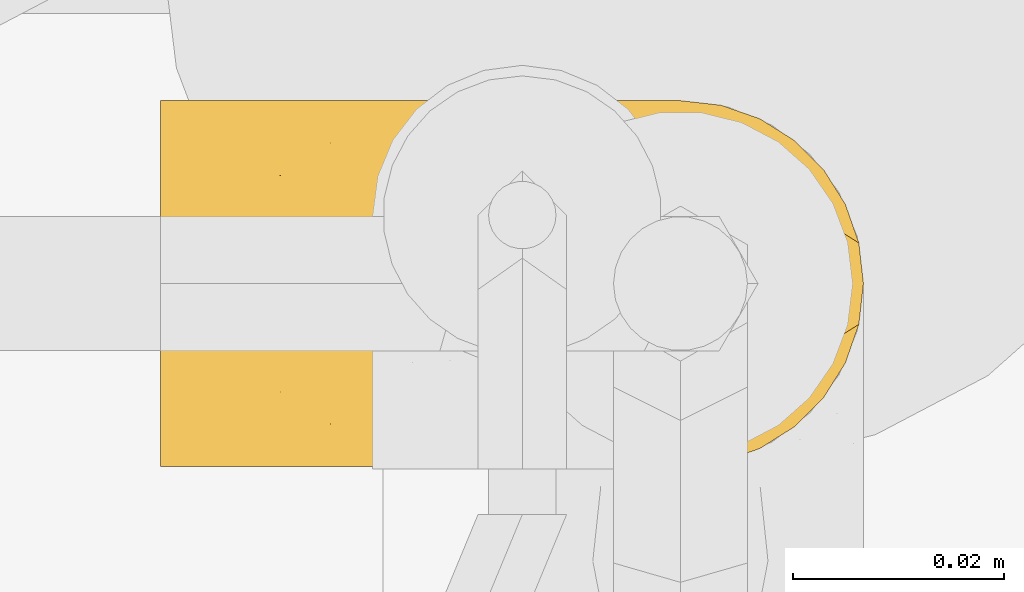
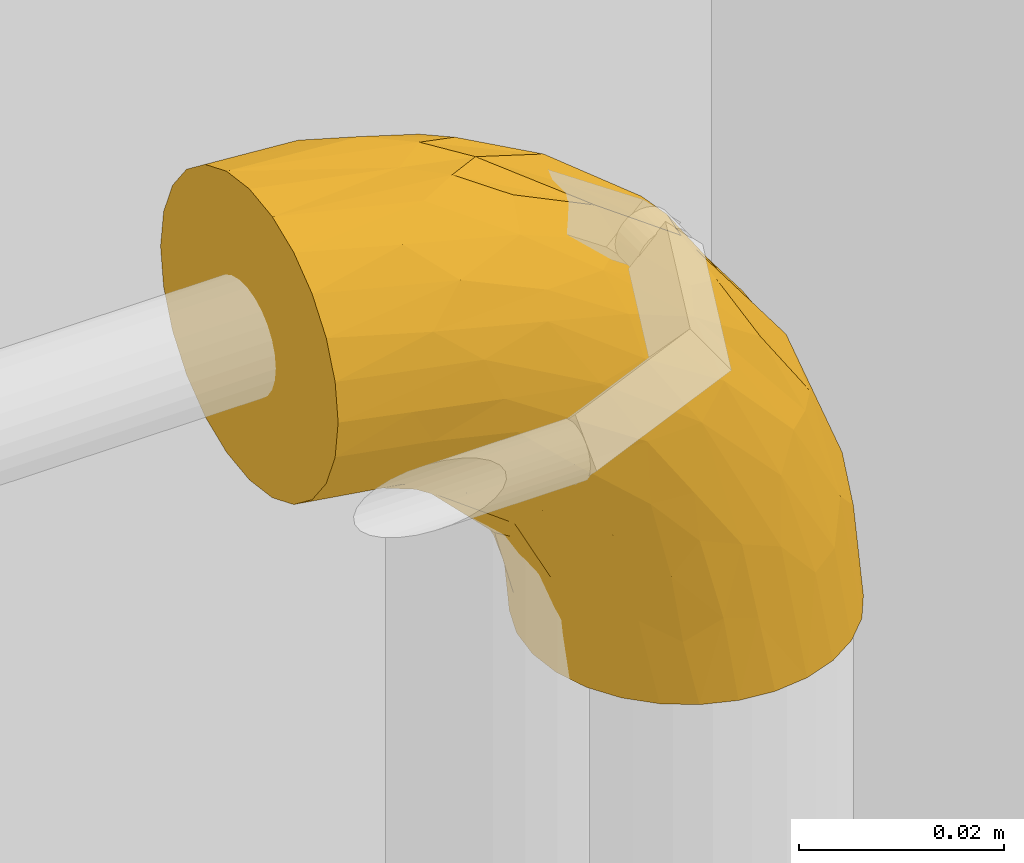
# One storey, part 9 of 32: 1 covering.
"""IFC2X3 building model written with IfcOpenShell, lengths in metres."""

import ifcopenshell
import ifcopenshell.guid

model = None  # the IFC model being written
_history = None  # IfcOwnerHistory: only IFC2X3 demands one
_inside = {}  # id of a spatial element -> (the spatial element, [elements in it])
_under = {}  # id of a project, library or spatial element -> (it, [spatial elements below it])
_declared = {}  # id of a project -> (the project, [libraries it declares])
_typed = {}  # id of a type object -> (the type object, [elements of that type])
_made_of = {}  # id of a material, layer set ... -> (it, [elements and type objects made of it])


def new_model(schema):
    """Start an empty IFC model of exactly this schema.

    Asked for "IFC4X3", IfcOpenShell would pick the latest addendum, in which some entities
    have other attributes; the version numbers below select the first issue.
    IFC2X3 requires an IfcOwnerHistory on every rooted entity: one is made here for all.
    """
    global model, _history
    if schema == "IFC4X3":
        model = ifcopenshell.file(schema_version=(4, 3, 0, 0))
    else:
        model = ifcopenshell.file(schema=schema)
    _inside.clear()
    _under.clear()
    _declared.clear()
    _typed.clear()
    _made_of.clear()
    _history = None
    if model.schema == "IFC2X3":
        org = make("IfcOrganization", Name="unknown")
        user = make(
            "IfcPersonAndOrganization",
            ThePerson=make("IfcPerson", FamilyName="unknown"),
            TheOrganization=org,
        )
        app = make(
            "IfcApplication",
            ApplicationDeveloper=org,
            Version="unknown",
            ApplicationFullName="unknown",
            ApplicationIdentifier="unknown",
        )
        _history = make(
            "IfcOwnerHistory",
            OwningUser=user,
            OwningApplication=app,
            ChangeAction="ADDED",
            CreationDate=0,
        )
    return model


def make(cls, **values):
    """One entity of the class cls with the attributes given. An attribute that is None is left unset."""
    return model.create_entity(
        cls, **{name: value for name, value in values.items() if value is not None}
    )


def entity(cls, *values):
    """Any entity or typed value of the class cls, its attributes in the order of the schema. None: left unset."""
    e = model.create_entity(cls)
    for i, value in enumerate(values):
        if value is not None:
            e[i] = value
    return e


def rooted(cls, **values):
    """An entity with a GlobalId (a new one), such as an element, a storey or a relation."""
    return make(cls, GlobalId=ifcopenshell.guid.new(), OwnerHistory=_history, **values)


def si_unit(unit_type, name, prefix=None):
    """IfcSIUnit, for example si_unit("LENGTHUNIT", "METRE", prefix="MILLI")."""
    return make("IfcSIUnit", UnitType=unit_type, Prefix=prefix, Name=name)


def converted_unit(unit_type, name, factor, base, dimensions=None, offset=None):
    """IfcConversionBasedUnit, such as the inch: factor (a typed value) times the base unit."""
    return make(
        "IfcConversionBasedUnit"
        if offset is None
        else "IfcConversionBasedUnitWithOffset",
        ConversionOffset=offset,
        Dimensions=None
        if dimensions is None
        else entity("IfcDimensionalExponents", *dimensions),
        UnitType=unit_type,
        Name=name,
        ConversionFactor=make(
            "IfcMeasureWithUnit", ValueComponent=factor, UnitComponent=base
        ),
    )


def derived_unit(unit_type, elements):
    """IfcDerivedUnit: a product of units, each with its exponent."""
    return make(
        "IfcDerivedUnit",
        Elements=[
            make("IfcDerivedUnitElement", Unit=unit, Exponent=power)
            for unit, power in elements
        ],
        UnitType=unit_type,
    )


def assignment(units):
    """IfcUnitAssignment: the units of a project."""
    return None if units is None else make("IfcUnitAssignment", Units=units)


def point(xyz):
    """IfcCartesianPoint."""
    return None if xyz is None else make("IfcCartesianPoint", Coordinates=xyz)


def direction(xyz):
    """IfcDirection."""
    return None if xyz is None else make("IfcDirection", DirectionRatios=xyz)


def frame(location, z_axis=None, x_axis=None):
    """IfcAxis2Placement3D, a coordinate frame: its origin and axes. An axis left out is left unset."""
    return make(
        "IfcAxis2Placement3D",
        Location=point(location),
        Axis=direction(z_axis),
        RefDirection=direction(x_axis),
    )


def origin():
    """The frame at (0, 0, 0) with its axes left unset."""
    return frame((0.0, 0.0, 0.0))


def place(relative_to, where):
    """IfcLocalPlacement: puts the frame where relative to a parent placement (None: the world)."""
    return make(
        "IfcLocalPlacement", PlacementRelTo=relative_to, RelativePlacement=where
    )


def context(
    kind, dimensions, precision=None, world=None, true_north=None, identifier=None
):
    """IfcGeometricRepresentationContext, for example the 3D "Model" context."""
    return make(
        "IfcGeometricRepresentationContext",
        ContextIdentifier=identifier,
        ContextType=kind,
        CoordinateSpaceDimension=dimensions,
        Precision=precision,
        WorldCoordinateSystem=world,
        TrueNorth=true_north,
    )


def subcontext(parent, identifier, kind, view, scale=None):
    """IfcGeometricRepresentationSubContext, for example "Body" below "Model"."""
    return make(
        "IfcGeometricRepresentationSubContext",
        ContextIdentifier=identifier,
        ContextType=kind,
        ParentContext=parent,
        TargetScale=scale,
        TargetView=view,
    )


def project(units=None, contexts=None):
    """IfcProject with its units and contexts."""
    return rooted(
        "IfcProject",
        Name="project",
        RepresentationContexts=contexts,
        UnitsInContext=assignment(units),
    )


def spatial(cls, under=None, at=None, **own):
    """A site, building, storey or space (cls), placed at a placement, below another one or the project."""
    s = rooted(cls, ObjectPlacement=at, **own)
    if under is not None:
        _under.setdefault(under.id(), (under, []))[1].append(s)
    return s


def faces_of(points, faces, orient=None, outer=None):
    """IfcFace entities. A face is a list of loops; a loop is a list of indices into points, from 0.

    orient and outer hold one flag for each loop. By default every Orientation is true, the
    first loop of a face is its IfcFaceOuterBound and the others are IfcFaceBound.
    """
    made = []
    for i, loops in enumerate(faces):
        bounds = []
        for j, loop in enumerate(loops):
            is_outer = j == 0 if outer is None else outer[i][j]
            bounds.append(
                make(
                    "IfcFaceOuterBound" if is_outer else "IfcFaceBound",
                    Bound=make("IfcPolyLoop", Polygon=[points[k] for k in loop]),
                    Orientation=True if orient is None else orient[i][j],
                )
            )
        made.append(make("IfcFace", Bounds=bounds))
    return made


def faceted_brep(points, faces, orient=None, outer=None, voids=None):
    """IfcFacetedBrep: a solid bounded by flat faces; with voids (closed shells), ...WithVoids."""
    shared = [point(p) for p in points]
    hull = make("IfcClosedShell", CfsFaces=faces_of(shared, faces, orient, outer))
    if voids is None:
        return make("IfcFacetedBrep", Outer=hull)
    return make(
        "IfcFacetedBrepWithVoids",
        Outer=hull,
        Voids=[
            make(cls, CfsFaces=faces_of(shared, fs, o, b)) for cls, fs, o, b in voids
        ],
    )


def shape(context_of_items, identifier, shape_type, items):
    """IfcShapeRepresentation: the items that make up one representation, for example the "Body"."""
    return make(
        "IfcShapeRepresentation",
        ContextOfItems=context_of_items,
        RepresentationIdentifier=identifier,
        RepresentationType=shape_type,
        Items=items,
    )


def material(Name=None, Category=None):
    """IfcMaterial."""
    return make("IfcMaterial", Name=Name, Category=Category)


def made_of(thing, what):
    """Note that an element or type object is made of a material, layer set ...; save() writes the relation."""
    if what is not None:
        _made_of.setdefault(what.id(), (what, []))[1].append(thing)
    return thing


def type_object(cls, material=None, **own):
    """A type object (cls), such as IfcWallType, which elements share."""
    return made_of(rooted(cls, **own), material)


def element(
    cls,
    number,
    at=None,
    inside=None,
    cuts=None,
    type_object=None,
    material=None,
    context=None,
    identifier="Body",
    shape_type=None,
    held_by="IfcProductDefinitionShape",
    body=None,
    shapes=None,
    **own,
):
    """One element of the class cls, such as IfcWall. Its Tag is "e" and its number.

    at: its placement. inside: the storey or other place that contains it. cuts: it is an
    opening in that element (IfcRelVoidsElement). A single representation is given by context,
    identifier, shape_type and body (its items); several are given by shapes. held_by: the class
    of the entity that holds the representations. save() writes the other relations.
    """
    e = rooted(cls, Tag="e%d" % number, ObjectPlacement=at, **own)
    if body is not None:
        shapes = [shape(context, identifier, shape_type, body)]
    if shapes is not None:
        e.Representation = make(held_by, Representations=shapes)
    if inside is not None:
        _inside.setdefault(inside.id(), (inside, []))[1].append(e)
    if cuts is not None:
        rooted(
            "IfcRelVoidsElement", RelatingBuildingElement=cuts, RelatedOpeningElement=e
        )
    if type_object is not None:
        _typed.setdefault(type_object.id(), (type_object, []))[1].append(e)
    return made_of(e, material)


def aggregate(whole, parts):
    """IfcRelAggregates: a whole, such as a stair, and the parts it consists of."""
    return rooted("IfcRelAggregates", RelatingObject=whole, RelatedObjects=parts)


def save(model, path):
    """Write the relations noted so far, then the file.

    IfcRelAggregates (storeys below a building ...), IfcRelContainedInSpatialStructure (elements
    in a storey), IfcRelDefinesByType, IfcRelAssociatesMaterial and IfcRelDeclares: one each for
    every whole, place, type object, material and project.
    """
    for whole, parts in _under.values():
        aggregate(whole, parts)
    for where, things in _inside.values():
        rooted(
            "IfcRelContainedInSpatialStructure",
            RelatedElements=things,
            RelatingStructure=where,
        )
    for kind, things in _typed.values():
        rooted("IfcRelDefinesByType", RelatedObjects=things, RelatingType=kind)
    for what, things in _made_of.values():
        rooted("IfcRelAssociatesMaterial", RelatedObjects=things, RelatingMaterial=what)
    for by, libraries in _declared.values():
        rooted("IfcRelDeclares", RelatingContext=by, RelatedDefinitions=libraries)
    model.write(path)


model = new_model("IFC2X3")

# Units and contexts
model_context = context("Model", 3, precision=1e-05, world=origin(), true_north=direction((6.123031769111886e-17, 1.0)))
body_context = subcontext(model_context, "Body", "Model", "MODEL_VIEW")
ifc_project = project(units=[si_unit("LENGTHUNIT", "METRE"), si_unit("AREAUNIT", "SQUARE_METRE"), si_unit("VOLUMEUNIT", "CUBIC_METRE"), converted_unit("PLANEANGLEUNIT", "DEGREE", entity("IfcPlaneAngleMeasure", 0.017453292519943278), si_unit("PLANEANGLEUNIT", "RADIAN"), dimensions=[0, 0, 0, 0, 0, 0, 0]), si_unit("MASSUNIT", "GRAM", prefix="KILO"), derived_unit("MASSDENSITYUNIT", [(si_unit("MASSUNIT", "GRAM", prefix="KILO"), 1), (si_unit("LENGTHUNIT", "METRE"), -3)]), derived_unit("IONCONCENTRATIONUNIT", [(si_unit("MASSUNIT", "GRAM", prefix="KILO"), 1), (si_unit("LENGTHUNIT", "METRE"), -3)]), derived_unit("MOMENTOFINERTIAUNIT", [(si_unit("LENGTHUNIT", "METRE"), 4)]), si_unit("TIMEUNIT", "SECOND"), si_unit("FREQUENCYUNIT", "HERTZ"), si_unit("THERMODYNAMICTEMPERATUREUNIT", "DEGREE_CELSIUS"), derived_unit("THERMALTRANSMITTANCEUNIT", [(si_unit("MASSUNIT", "GRAM", prefix="KILO"), 1), (si_unit("THERMODYNAMICTEMPERATUREUNIT", "KELVIN"), -1), (si_unit("TIMEUNIT", "SECOND"), -3)]), derived_unit("THERMALCONDUCTANCEUNIT", [(si_unit("MASSUNIT", "GRAM", prefix="KILO"), 1), (si_unit("THERMODYNAMICTEMPERATUREUNIT", "KELVIN"), -1), (si_unit("TIMEUNIT", "SECOND"), -3), (si_unit("LENGTHUNIT", "METRE"), 1)]), derived_unit("VOLUMETRICFLOWRATEUNIT", [(si_unit("LENGTHUNIT", "METRE", prefix="DECI"), 3), (si_unit("TIMEUNIT", "SECOND"), -1)]), derived_unit("MASSFLOWRATEUNIT", [(si_unit("MASSUNIT", "GRAM", prefix="KILO"), 1), (si_unit("TIMEUNIT", "SECOND"), -1)]), derived_unit("ROTATIONALFREQUENCYUNIT", [(si_unit("TIMEUNIT", "SECOND"), -1)]), si_unit("ELECTRICCURRENTUNIT", "AMPERE"), si_unit("ELECTRICVOLTAGEUNIT", "VOLT"), si_unit("POWERUNIT", "WATT"), si_unit("FORCEUNIT", "NEWTON", prefix="KILO"), si_unit("ILLUMINANCEUNIT", "LUX"), si_unit("LUMINOUSFLUXUNIT", "LUMEN"), si_unit("LUMINOUSINTENSITYUNIT", "CANDELA"), si_unit("ENERGYUNIT", "JOULE"), derived_unit("USERDEFINED", [(si_unit("MASSUNIT", "GRAM", prefix="KILO"), -1), (si_unit("LENGTHUNIT", "METRE"), -2), (si_unit("TIMEUNIT", "SECOND"), 3), (si_unit("LUMINOUSFLUXUNIT", "LUMEN"), 1)]), derived_unit("USERDEFINED", [(si_unit("MASSUNIT", "GRAM", prefix="KILO"), 1), (si_unit("TIMEUNIT", "SECOND"), -3), (si_unit("LENGTHUNIT", "METRE"), 3), (si_unit("ELECTRICCURRENTUNIT", "AMPERE"), -2)]), derived_unit("SOUNDPOWERUNIT", [(si_unit("MASSUNIT", "GRAM", prefix="KILO"), 1), (si_unit("TIMEUNIT", "SECOND"), -3), (si_unit("LENGTHUNIT", "METRE"), 2)]), derived_unit("SOUNDPRESSUREUNIT", [(si_unit("MASSUNIT", "GRAM", prefix="KILO"), 1), (si_unit("LENGTHUNIT", "METRE"), -1), (si_unit("TIMEUNIT", "SECOND"), -2)]), derived_unit("LINEARVELOCITYUNIT", [(si_unit("LENGTHUNIT", "METRE"), 1), (si_unit("TIMEUNIT", "SECOND"), -1)]), si_unit("PRESSUREUNIT", "PASCAL"), derived_unit("USERDEFINED", [(si_unit("MASSUNIT", "GRAM", prefix="KILO"), 1), (si_unit("LENGTHUNIT", "METRE"), -2), (si_unit("TIMEUNIT", "SECOND"), -2)]), derived_unit("LINEARFORCEUNIT", [(si_unit("MASSUNIT", "GRAM", prefix="KILO"), 1), (si_unit("TIMEUNIT", "SECOND"), -2)]), derived_unit("PLANARFORCEUNIT", [(si_unit("MASSUNIT", "GRAM", prefix="KILO"), 1), (si_unit("LENGTHUNIT", "METRE"), -1), (si_unit("TIMEUNIT", "SECOND"), -2)]), derived_unit("SPECIFICHEATCAPACITYUNIT", [(si_unit("THERMODYNAMICTEMPERATUREUNIT", "KELVIN"), -1), (si_unit("LENGTHUNIT", "METRE"), 2), (si_unit("TIMEUNIT", "SECOND"), -2)]), derived_unit("HEATFLUXDENSITYUNIT", [(si_unit("MASSUNIT", "GRAM", prefix="KILO"), 1), (si_unit("TIMEUNIT", "SECOND"), -3)]), derived_unit("HEATINGVALUEUNIT", [(si_unit("LENGTHUNIT", "METRE"), 2), (si_unit("TIMEUNIT", "SECOND"), -2)]), derived_unit("VAPORPERMEABILITYUNIT", [(si_unit("LENGTHUNIT", "METRE"), -1), (si_unit("TIMEUNIT", "SECOND"), 1)]), derived_unit("DYNAMICVISCOSITYUNIT", [(si_unit("MASSUNIT", "GRAM", prefix="KILO"), 1), (si_unit("TIMEUNIT", "SECOND"), -1), (si_unit("LENGTHUNIT", "METRE"), -1)]), derived_unit("THERMALEXPANSIONCOEFFICIENTUNIT", [(si_unit("THERMODYNAMICTEMPERATUREUNIT", "KELVIN"), -1)]), derived_unit("MODULUSOFELASTICITYUNIT", [(si_unit("MASSUNIT", "GRAM", prefix="KILO"), 1), (si_unit("LENGTHUNIT", "METRE"), -1), (si_unit("TIMEUNIT", "SECOND"), -2)]), derived_unit("ISOTHERMALMOISTURECAPACITYUNIT", [(si_unit("MASSUNIT", "GRAM", prefix="KILO"), -1), (si_unit("LENGTHUNIT", "METRE"), 3)]), derived_unit("MOISTUREDIFFUSIVITYUNIT", [(si_unit("TIMEUNIT", "SECOND"), -1), (si_unit("LENGTHUNIT", "METRE"), 2)]), derived_unit("MASSPERLENGTHUNIT", [(si_unit("MASSUNIT", "GRAM", prefix="KILO"), 1), (si_unit("LENGTHUNIT", "METRE"), -1)]), derived_unit("THERMALRESISTANCEUNIT", [(si_unit("MASSUNIT", "GRAM", prefix="KILO"), -1), (si_unit("TIMEUNIT", "SECOND"), 3), (si_unit("THERMODYNAMICTEMPERATUREUNIT", "KELVIN"), 1)]), derived_unit("ACCELERATIONUNIT", [(si_unit("LENGTHUNIT", "METRE"), 1), (si_unit("TIMEUNIT", "SECOND"), -2)]), derived_unit("ANGULARVELOCITYUNIT", [(si_unit("TIMEUNIT", "SECOND"), -1), (si_unit("PLANEANGLEUNIT", "RADIAN"), 1)]), derived_unit("LINEARSTIFFNESSUNIT", [(si_unit("MASSUNIT", "GRAM", prefix="KILO"), 1), (si_unit("TIMEUNIT", "SECOND"), -2)]), derived_unit("WARPINGCONSTANTUNIT", [(si_unit("LENGTHUNIT", "METRE"), 6)]), derived_unit("LINEARMOMENTUNIT", [(si_unit("MASSUNIT", "GRAM", prefix="KILO"), 1), (si_unit("LENGTHUNIT", "METRE"), 1), (si_unit("TIMEUNIT", "SECOND"), -2)]), derived_unit("TORQUEUNIT", [(si_unit("MASSUNIT", "GRAM", prefix="KILO"), 1), (si_unit("LENGTHUNIT", "METRE"), 2), (si_unit("TIMEUNIT", "SECOND"), -2)])], contexts=[model_context])

# Site, building, storey
site_placement = place(None, origin())
site = spatial("IfcSite", under=ifc_project, at=site_placement, Name="Default", CompositionType="ELEMENT")
building_placement = place(site_placement, origin())
building = spatial("IfcBuilding", under=site, at=building_placement, CompositionType="ELEMENT")
storey_placement = place(building_placement, origin())
storey = spatial("IfcBuildingStorey", under=building, at=storey_placement, Name="Niveau 0", CompositionType="ELEMENT", Elevation=-1.949160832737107e-14)

# Covering
ifc_material = material(Name="Matériau du rendu 255-255-255")
covering_type = type_object("IfcCoveringType", Name="Isolation des canalisations:Par défaut", PredefinedType="INSULATION")
covering_placement = place(storey_placement, frame((-13.611196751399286, 2.7665812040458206, 2.453383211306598)))
element("IfcCovering", 1, at=covering_placement, inside=storey, type_object=covering_type, material=ifc_material, Name="Isolation des canalisations:Par défaut", ObjectType="Isolation des canalisations:Par défaut", PredefinedType="INSULATION", context=body_context, shape_type="Brep", body=[
    faceted_brep([(0.050895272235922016, 0.03629527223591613, -0.06824527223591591), (0.054757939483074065, 0.03585983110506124, -0.06824527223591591), (0.05842589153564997, 0.034575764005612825, -0.06824527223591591), (0.06171546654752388, 0.032507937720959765, -0.06824527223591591), (0.06446206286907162, 0.029760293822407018, -0.06824527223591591), (0.06652829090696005, 0.026470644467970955, -0.06824527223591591), (0.06781077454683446, 0.02280380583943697, -0.06824527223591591), (0.0682452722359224, 0.018945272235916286, -0.06824527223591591), (0.06780983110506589, 0.015082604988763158, -0.06824527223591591), (0.06652576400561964, 0.011414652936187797, -0.06824527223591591), (0.06445793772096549, 0.008125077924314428, -0.06824527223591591), (0.06171029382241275, 0.005378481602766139, -0.06824527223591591), (0.058420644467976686, 0.0033122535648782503, -0.06824527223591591), (0.05475380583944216, 0.002029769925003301, -0.06824527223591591), (0.050895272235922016, 0.0015952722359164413, -0.06824527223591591), (0.04703260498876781, 0.0020307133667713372, -0.06824527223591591), (0.04336465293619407, 0.00331478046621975, -0.06824527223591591), (0.04007507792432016, 0.005382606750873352, -0.06824527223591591), (0.03732848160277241, 0.008130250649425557, -0.06824527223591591), (0.03526225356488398, 0.01141990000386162, -0.06824527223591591), (0.033979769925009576, 0.015086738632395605, -0.06824527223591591), (0.03354527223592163, 0.018945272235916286, -0.06824527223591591), (0.03398071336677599, 0.022807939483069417, -0.06824527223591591), (0.0352647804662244, 0.026475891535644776, -0.06824527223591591), (0.037332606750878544, 0.029765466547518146, -0.06824527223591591), (0.04008025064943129, 0.03251206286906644, -0.06824527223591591), (0.043369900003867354, 0.03457829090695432, -0.06824527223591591), (0.047036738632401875, 0.035860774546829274, -0.06824527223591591), (0.001595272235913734, 0.014454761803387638, -0.03570408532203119), (0.001595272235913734, 0.010270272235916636, -0.033970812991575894), (0.001595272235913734, 0.006676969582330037, -0.03121357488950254), (0.001595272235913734, 0.003919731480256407, -0.02762027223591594), (0.001595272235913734, 0.0021864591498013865, -0.023435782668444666), (0.001595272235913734, 0.0015952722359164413, -0.018945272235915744), (0.001595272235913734, 0.0021864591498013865, -0.014454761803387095), (0.001595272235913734, 0.003919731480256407, -0.010270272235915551), (0.001595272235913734, 0.006676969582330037, -0.006676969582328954), (0.001595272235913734, 0.010270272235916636, -0.0039197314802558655), (0.001595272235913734, 0.014454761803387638, -0.0021864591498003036), (0.001595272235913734, 0.018945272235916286, -0.0015952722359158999), (0.001595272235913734, 0.02343578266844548, -0.0021864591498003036), (0.001595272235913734, 0.027620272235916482, -0.0039197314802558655), (0.001595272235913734, 0.03121357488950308, -0.006676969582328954), (0.001595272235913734, 0.033970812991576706, -0.010270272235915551), (0.001595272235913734, 0.03570408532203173, -0.014454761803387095), (0.001595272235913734, 0.03629527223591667, -0.018945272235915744), (0.001595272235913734, 0.03570408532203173, -0.023435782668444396), (0.001595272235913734, 0.033970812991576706, -0.02762027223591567), (0.001595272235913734, 0.03121357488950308, -0.031213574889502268), (0.001595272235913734, 0.027620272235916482, -0.033970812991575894), (0.001595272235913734, 0.02343578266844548, -0.03570408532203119), (0.001595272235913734, 0.01894527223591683, -0.03629527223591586), (0.04461060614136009, 0.03133458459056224, -0.024367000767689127), (0.05520607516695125, 0.0324510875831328, -0.04088020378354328), (0.04662716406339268, 0.03378706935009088, -0.031240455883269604), (0.022635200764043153, 0.022149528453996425, -0.005317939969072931), (0.018502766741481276, 0.018945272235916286, -0.004958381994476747), (0.027101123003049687, 0.018945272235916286, -0.0066687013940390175), (0.026428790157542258, 0.028816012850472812, -0.009728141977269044), (0.034746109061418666, 0.03068263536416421, -0.015760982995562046), (0.02724880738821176, 0.03274319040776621, -0.014206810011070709), (0.017647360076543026, 0.02524054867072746, -0.004776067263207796), (0.013004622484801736, 0.029200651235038, -0.005987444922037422), (0.042951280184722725, 0.03568226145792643, -0.03372303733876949), (0.03645563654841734, 0.03629527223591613, -0.03338490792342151), (0.03141249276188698, 0.03597727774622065, -0.024904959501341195), (0.06144561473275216, 0.030752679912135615, -0.05201300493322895), (0.05371291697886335, 0.029890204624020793, -0.033276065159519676), (0.018347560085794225, 0.03581412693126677, -0.017585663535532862), (0.026339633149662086, 0.034392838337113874, -0.016675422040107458), (0.05971173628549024, 0.02316390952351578, -0.036692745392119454), (0.0653551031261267, 0.02435364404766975, -0.05204597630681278), (0.05992934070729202, 0.02745100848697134, -0.04090792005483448), (0.017676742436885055, 0.03226292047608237, -0.010004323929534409), (0.0471425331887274, 0.03629527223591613, -0.04937897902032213), (0.04179908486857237, 0.03629527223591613, -0.041381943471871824), (0.01316791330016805, 0.03478404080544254, -0.013063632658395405), (0.03768974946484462, 0.023959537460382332, -0.013097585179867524), (0.04805807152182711, 0.02277267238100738, -0.021058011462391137), (0.05009999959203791, 0.026249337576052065, -0.02491877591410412), (0.06570855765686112, 0.018945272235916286, -0.05549234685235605), (0.0383757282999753, 0.027542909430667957, -0.015418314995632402), (0.02804202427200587, 0.024608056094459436, -0.008103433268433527), (0.06459915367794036, 0.027861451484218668, -0.05599549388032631), (0.06317184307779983, 0.018945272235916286, -0.04273942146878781), (0.04921371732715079, 0.03629527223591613, -0.059791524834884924), (0.0517926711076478, 0.03591493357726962, -0.05151216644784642), (0.05932311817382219, 0.033311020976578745, -0.0559211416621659), (0.03696754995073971, 0.03484866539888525, -0.02452729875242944), (0.05614202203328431, 0.035026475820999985, -0.05642461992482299), (0.03623295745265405, 0.0330855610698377, -0.020046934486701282), (0.05241841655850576, 0.03479750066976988, -0.04390302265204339), (0.028458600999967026, 0.03629527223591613, -0.028041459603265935), (0.020461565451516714, 0.03629527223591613, -0.02269801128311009), (0.04901890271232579, 0.03629527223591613, -0.05881212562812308), (0.05594789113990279, 0.018945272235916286, -0.0319280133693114), (0.04575145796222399, 0.028838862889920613, -0.02253776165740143), (0.03791253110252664, 0.018945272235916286, -0.013892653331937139), (0.010049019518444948, 0.03629527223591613, -0.020626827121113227), (0.04872393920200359, 0.018945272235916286, -0.02111660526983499), (0.03562046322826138, 0.028741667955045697, -0.06012681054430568), (0.012762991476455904, 0.035509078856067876, -0.02554511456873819), (0.020812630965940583, 0.029714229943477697, -0.038163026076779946), (0.012286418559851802, 0.030278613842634, -0.03369863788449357), (0.022511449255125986, 0.03257014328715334, -0.03585312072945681), (0.04260303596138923, 0.035962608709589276, -0.04758380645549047), (0.0453997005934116, 0.035754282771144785, -0.05793604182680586), (0.04014164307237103, 0.03464339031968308, -0.05179104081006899), (0.02204334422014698, 0.03590367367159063, -0.027448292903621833), (0.01760257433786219, 0.033786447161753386, -0.031246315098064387), (0.031224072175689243, 0.021988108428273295, -0.05558856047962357), (0.03344901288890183, 0.023813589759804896, -0.06109218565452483), (0.03132557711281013, 0.018945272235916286, -0.05996125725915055), (0.0342289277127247, 0.03344556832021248, -0.04550906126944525), (0.03727571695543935, 0.035636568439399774, -0.041544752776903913), (0.00888733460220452, 0.03321547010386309, -0.0294937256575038), (0.014357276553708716, 0.022634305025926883, -0.03852252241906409), (0.009879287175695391, 0.018945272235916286, -0.038514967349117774), (0.00758599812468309, 0.021964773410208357, -0.03659242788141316), (0.037997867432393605, 0.03195826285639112, -0.057971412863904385), (0.033044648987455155, 0.030390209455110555, -0.05019700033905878), (0.009229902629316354, 0.025154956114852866, -0.036038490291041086), (0.0167708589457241, 0.02650292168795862, -0.038175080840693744), (0.041766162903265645, 0.03413176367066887, -0.0605042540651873), (0.026739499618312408, 0.02725796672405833, -0.04525391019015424), (0.027451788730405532, 0.0314395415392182, -0.04141450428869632), (0.0292647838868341, 0.018945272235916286, -0.05227027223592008), (0.023249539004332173, 0.02282584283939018, -0.04415845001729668), (0.017570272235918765, 0.018945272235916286, -0.04057576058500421), (0.028875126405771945, 0.03537608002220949, -0.03407046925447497), (0.031890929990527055, 0.02543466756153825, -0.05464264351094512), (0.028265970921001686, 0.023656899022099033, -0.04949521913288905), (0.02341752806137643, 0.018945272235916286, -0.04642301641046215), (0.029179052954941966, 0.0338502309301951, -0.03870099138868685), (0.012286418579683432, 0.00761193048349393, -0.033698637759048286), (0.03561656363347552, 0.00915422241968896, -0.06012621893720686), (0.03799129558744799, 0.0059365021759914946, -0.05796574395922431), (0.0075859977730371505, 0.01592577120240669, -0.03659242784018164), (0.04259271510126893, 0.0019307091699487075, -0.047594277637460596), (0.04179908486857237, 0.0015952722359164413, -0.041381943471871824), (0.03724696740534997, 0.002261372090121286, -0.04154972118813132), (0.033036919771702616, 0.007507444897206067, -0.05019606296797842), (0.027451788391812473, 0.006451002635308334, -0.04141450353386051), (0.029189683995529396, 0.004039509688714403, -0.03870907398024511), (0.022521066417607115, 0.005316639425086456, -0.035853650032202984), (0.03344737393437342, 0.014084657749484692, -0.06109515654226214), (0.028875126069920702, 0.0025144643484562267, -0.03407046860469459), (0.022043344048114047, 0.0019868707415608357, -0.027448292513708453), (0.01760257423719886, 0.004104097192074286, -0.03124631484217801), (0.012762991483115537, 0.002381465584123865, -0.025545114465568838), (0.010049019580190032, 0.0015952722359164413, -0.020626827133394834), (0.04175980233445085, 0.003761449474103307, -0.06049677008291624), (0.04539407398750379, 0.002137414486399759, -0.057931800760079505), (0.04013105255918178, 0.003249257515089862, -0.05177761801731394), (0.00922990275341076, 0.012735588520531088, -0.03603849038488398), (0.008887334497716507, 0.004675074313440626, -0.02949372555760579), (0.03422554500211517, 0.004452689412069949, -0.04552472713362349), (0.014357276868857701, 0.015256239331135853, -0.03852252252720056), (0.02825837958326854, 0.014235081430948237, -0.04948512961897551), (0.026712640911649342, 0.010647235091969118, -0.04523640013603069), (0.023230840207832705, 0.015070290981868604, -0.04414337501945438), (0.031223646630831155, 0.01590572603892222, -0.05558905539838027), (0.03189268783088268, 0.012461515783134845, -0.054652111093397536), (0.016770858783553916, 0.011387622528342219, -0.038175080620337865), (0.04921371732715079, 0.0015952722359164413, -0.05979152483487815), (0.04901890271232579, 0.0015952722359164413, -0.05881212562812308), (0.0471425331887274, 0.0015952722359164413, -0.04937897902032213), (0.020461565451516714, 0.0015952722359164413, -0.02269801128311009), (0.028458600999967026, 0.0015952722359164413, -0.028041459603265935), (0.020805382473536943, 0.008173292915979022, -0.03815555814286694), (0.03645563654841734, 0.0015952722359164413, -0.03338490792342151), (0.027228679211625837, 0.005144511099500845, -0.014201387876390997), (0.0347636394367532, 0.007214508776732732, -0.01576489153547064), (0.02642879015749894, 0.009074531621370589, -0.009728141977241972), (0.02263520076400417, 0.01574101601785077, -0.005317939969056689), (0.028042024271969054, 0.013282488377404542, -0.008103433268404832), (0.037689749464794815, 0.013931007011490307, -0.013097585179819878), (0.05992974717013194, 0.01043424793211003, -0.040915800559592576), (0.06535408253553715, 0.013532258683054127, -0.052048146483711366), (0.05970534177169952, 0.014723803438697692, -0.03668245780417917), (0.05520108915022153, 0.005435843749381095, -0.04088029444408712), (0.046606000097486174, 0.004097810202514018, -0.03122945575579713), (0.05242173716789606, 0.0030906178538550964, -0.0439225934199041), (0.04297076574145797, 0.002206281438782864, -0.033757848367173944), (0.018340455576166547, 0.0020764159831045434, -0.017583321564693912), (0.02633963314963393, 0.003497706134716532, -0.016675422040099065), (0.036215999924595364, 0.004809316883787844, -0.020027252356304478), (0.013166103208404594, 0.0031070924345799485, -0.013061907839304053), (0.017647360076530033, 0.01264999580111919, -0.004776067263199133), (0.06459558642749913, 0.010023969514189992, -0.05599323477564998), (0.01300462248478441, 0.008689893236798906, -0.005987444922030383), (0.03835185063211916, 0.010351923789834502, -0.01539871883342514), (0.017676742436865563, 0.005627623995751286, -0.010004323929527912), (0.05931818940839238, 0.004576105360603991, -0.05592223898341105), (0.06144180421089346, 0.007133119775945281, -0.05201579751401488), (0.05178953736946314, 0.001974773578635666, -0.051515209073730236), (0.057836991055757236, 0.007727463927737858, -0.04090335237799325), (0.04461060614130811, 0.006555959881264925, -0.02436700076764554), (0.05616681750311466, 0.002851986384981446, -0.05668309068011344), (0.04806993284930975, 0.015114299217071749, -0.021070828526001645), (0.05009283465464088, 0.01163263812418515, -0.024916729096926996), (0.031417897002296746, 0.0019147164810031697, -0.024899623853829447), (0.03701879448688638, 0.003047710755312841, -0.024551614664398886), (0.04571403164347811, 0.00904990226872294, -0.022503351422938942), (0.05365558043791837, 0.009268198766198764, -0.03153712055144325)], [[[0, 1, 2, 3, 4, 5, 6, 7, 8, 9, 10, 11, 12, 13, 14, 15, 16, 17, 18, 19, 20, 21, 22, 23, 24, 25, 26, 27]], [[28, 29, 30, 31, 32, 33, 34, 35, 36, 37, 38, 39, 40, 41, 42, 43, 44, 45, 46, 47, 48, 49, 50, 51]], [[52, 53, 54]], [[55, 56, 57]], [[58, 59, 60]], [[61, 58, 62]], [[63, 64, 65]], [[61, 41, 40]], [[66, 53, 67]], [[68, 69, 65]], [[70, 71, 72]], [[62, 73, 42]], [[63, 74, 75, 64]], [[45, 44, 68]], [[69, 68, 76]], [[77, 78, 79]], [[42, 73, 43]], [[80, 7, 6]], [[58, 81, 59]], [[61, 55, 82]], [[71, 5, 83]], [[84, 71, 70]], [[83, 5, 4]], [[6, 71, 80]], [[71, 84, 80]], [[77, 55, 57]], [[5, 71, 6]], [[3, 66, 4]], [[1, 0, 85]], [[63, 86, 74]], [[66, 87, 53]], [[62, 42, 41]], [[63, 65, 88]], [[1, 86, 89]], [[40, 56, 55]], [[73, 60, 76]], [[83, 72, 71]], [[90, 59, 52]], [[40, 55, 61]], [[87, 66, 3]], [[4, 66, 83]], [[87, 3, 2]], [[72, 83, 66]], [[91, 89, 86]], [[53, 87, 91]], [[54, 53, 91]], [[67, 53, 52]], [[63, 54, 91]], [[54, 88, 90]], [[91, 87, 89]], [[65, 64, 92, 93]], [[86, 63, 91]], [[86, 85, 94, 74]], [[1, 85, 86]], [[70, 72, 79]], [[78, 95, 70]], [[67, 79, 72]], [[59, 81, 96]], [[40, 39, 56]], [[77, 57, 97]], [[82, 55, 77]], [[87, 2, 89]], [[1, 89, 2]], [[81, 82, 77]], [[58, 61, 82]], [[68, 65, 93]], [[88, 65, 69]], [[68, 93, 98, 45]], [[76, 68, 44]], [[90, 88, 69]], [[54, 63, 88]], [[60, 90, 69]], [[54, 90, 52]], [[59, 90, 60]], [[82, 81, 58]], [[77, 79, 81]], [[96, 81, 79]], [[44, 43, 76]], [[73, 76, 43]], [[61, 62, 41]], [[73, 62, 58]], [[76, 60, 69]], [[60, 73, 58]], [[70, 79, 78]], [[95, 84, 70]], [[67, 52, 96]], [[78, 97, 99]], [[66, 67, 72]], [[97, 78, 77]], [[78, 99, 95]], [[67, 96, 79]], [[59, 96, 52]], [[100, 24, 23]], [[93, 101, 98]], [[102, 103, 104]], [[98, 101, 46]], [[105, 106, 107]], [[108, 109, 101]], [[110, 111, 112]], [[92, 108, 93]], [[113, 114, 107]], [[47, 115, 48]], [[116, 117, 118]], [[49, 48, 103]], [[119, 100, 120]], [[100, 119, 24]], [[121, 122, 116]], [[119, 120, 113]], [[103, 122, 121]], [[115, 103, 48]], [[119, 107, 123]], [[123, 26, 25]], [[118, 51, 50]], [[26, 106, 27]], [[106, 74, 94]], [[46, 101, 47]], [[115, 101, 109]], [[123, 106, 26]], [[124, 125, 120]], [[22, 21, 112]], [[119, 25, 24]], [[110, 112, 126]], [[111, 23, 22]], [[114, 75, 105]], [[116, 127, 128]], [[122, 127, 116]], [[64, 129, 92]], [[106, 94, 27]], [[111, 100, 23]], [[109, 129, 104]], [[130, 124, 120]], [[130, 120, 100]], [[120, 125, 113]], [[130, 110, 131]], [[102, 124, 122]], [[121, 118, 50]], [[27, 94, 85, 0]], [[128, 117, 116]], [[127, 122, 124]], [[131, 124, 130]], [[131, 132, 127]], [[119, 123, 25]], [[106, 123, 107]], [[108, 101, 93]], [[113, 107, 119]], [[129, 133, 104]], [[125, 133, 113]], [[113, 133, 114]], [[129, 64, 114]], [[75, 74, 105]], [[92, 129, 108]], [[109, 108, 129]], [[46, 45, 98]], [[111, 110, 130]], [[126, 131, 110]], [[124, 131, 127]], [[111, 130, 100]], [[112, 111, 22]], [[50, 49, 121]], [[103, 121, 49]], [[101, 115, 47]], [[103, 115, 109]], [[116, 118, 121]], [[51, 118, 117]], [[133, 125, 104]], [[114, 133, 129]], [[102, 104, 125]], [[103, 109, 104]], [[124, 102, 125]], [[103, 102, 122]], [[114, 64, 75]], [[106, 105, 74]], [[107, 114, 105]], [[132, 131, 126]], [[132, 128, 127]], [[30, 29, 134]], [[135, 18, 136]], [[51, 117, 137]], [[138, 139, 140]], [[141, 135, 136]], [[142, 143, 144]], [[145, 112, 20]], [[146, 147, 148]], [[149, 150, 32]], [[151, 152, 153]], [[134, 29, 154]], [[155, 31, 30]], [[18, 135, 19]], [[149, 32, 31]], [[156, 141, 136]], [[157, 117, 128]], [[158, 159, 160]], [[126, 112, 161]], [[161, 145, 162]], [[155, 149, 31]], [[154, 28, 137]], [[17, 151, 136]], [[18, 17, 136]], [[145, 19, 135]], [[135, 141, 162]], [[17, 16, 151]], [[16, 15, 152]], [[146, 144, 143]], [[143, 140, 146]], [[159, 163, 160]], [[15, 14, 164, 165]], [[15, 165, 152]], [[138, 152, 166]], [[141, 159, 162]], [[155, 134, 148]], [[112, 21, 20]], [[167, 147, 168]], [[144, 169, 142]], [[145, 135, 162]], [[156, 136, 153]], [[141, 142, 159]], [[169, 159, 142]], [[157, 160, 163]], [[157, 128, 160]], [[166, 152, 165]], [[154, 137, 157]], [[157, 163, 154]], [[158, 132, 126]], [[126, 161, 158]], [[152, 151, 16]], [[136, 151, 153]], [[168, 146, 170]], [[149, 147, 167]], [[156, 142, 141]], [[140, 156, 153]], [[143, 142, 156]], [[140, 153, 138]], [[170, 146, 140]], [[148, 147, 149]], [[146, 168, 147]], [[150, 149, 167]], [[150, 33, 32]], [[158, 161, 162]], [[159, 158, 162]], [[160, 132, 158]], [[112, 145, 161]], [[19, 145, 20]], [[134, 154, 163]], [[29, 28, 154]], [[134, 155, 30]], [[149, 155, 148]], [[51, 137, 28]], [[157, 137, 117]], [[140, 143, 156]], [[144, 146, 148]], [[148, 134, 144]], [[169, 134, 163]], [[134, 169, 144]], [[159, 169, 163]], [[139, 138, 166]], [[139, 170, 140]], [[152, 138, 153]], [[160, 128, 132]], [[171, 172, 173]], [[174, 175, 176]], [[177, 178, 179]], [[180, 181, 182]], [[183, 182, 181]], [[184, 33, 150, 167]], [[171, 185, 186]], [[184, 187, 34]], [[174, 38, 188]], [[177, 189, 178]], [[36, 190, 37]], [[176, 175, 191]], [[192, 36, 35]], [[37, 190, 188]], [[174, 176, 57]], [[193, 11, 194]], [[183, 166, 195]], [[175, 174, 188]], [[195, 166, 165, 164]], [[56, 174, 57]], [[10, 194, 11]], [[196, 197, 180]], [[179, 178, 84]], [[12, 193, 198]], [[11, 193, 12]], [[190, 192, 173]], [[179, 95, 199]], [[189, 9, 178]], [[193, 180, 182]], [[9, 189, 10]], [[8, 80, 178]], [[177, 179, 200]], [[201, 170, 183]], [[177, 194, 189]], [[37, 188, 38]], [[178, 9, 8]], [[194, 177, 196]], [[164, 14, 13]], [[187, 192, 35]], [[167, 201, 184]], [[194, 10, 189]], [[180, 193, 194]], [[198, 182, 195]], [[196, 180, 194]], [[181, 180, 197]], [[185, 202, 186]], [[201, 167, 168, 170]], [[201, 202, 185]], [[183, 170, 139, 166]], [[195, 182, 183]], [[164, 13, 195]], [[198, 13, 12]], [[199, 95, 99]], [[200, 199, 176]], [[191, 173, 172]], [[200, 203, 204]], [[174, 56, 38]], [[56, 39, 38]], [[199, 97, 176]], [[182, 198, 193]], [[13, 198, 195]], [[188, 173, 175]], [[191, 175, 173]], [[202, 201, 183]], [[184, 201, 185]], [[187, 184, 185]], [[33, 184, 34]], [[183, 181, 202]], [[186, 181, 197]], [[181, 186, 202]], [[186, 197, 172]], [[191, 203, 200]], [[171, 173, 192]], [[203, 172, 197]], [[200, 176, 191]], [[187, 185, 171]], [[35, 34, 187]], [[192, 190, 36]], [[188, 190, 173]], [[172, 171, 186]], [[187, 171, 192]], [[179, 84, 95]], [[80, 8, 7]], [[80, 84, 178]], [[97, 57, 176]], [[177, 200, 204]], [[179, 199, 200]], [[97, 199, 99]], [[172, 203, 191]], [[204, 197, 196]], [[197, 204, 203]], [[177, 204, 196]]]),
])

save(model, "model.ifc")
